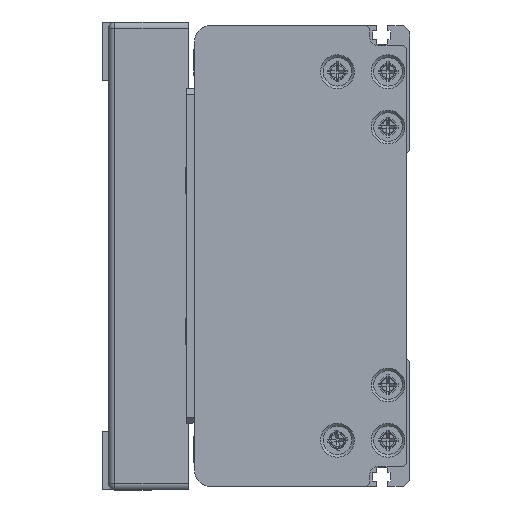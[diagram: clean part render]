
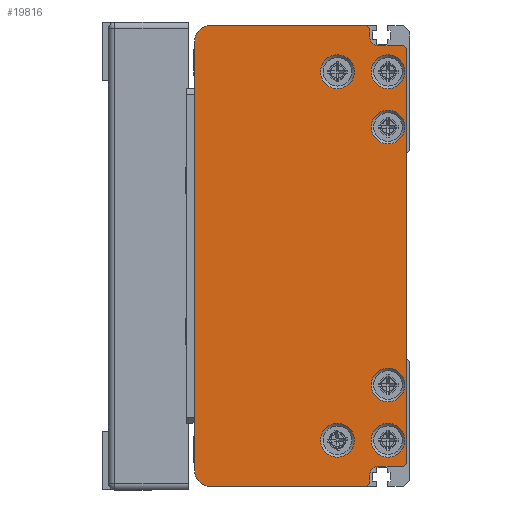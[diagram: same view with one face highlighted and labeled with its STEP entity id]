
A CAD part, left-side view. The second image highlights one B-rep face of the part: STEP entity #19816.
In plain terms, the highlighted planar face has unit normal (-1, 0, 0) as drawn and (0, 0, -1) by its records, which use the part's own axes.
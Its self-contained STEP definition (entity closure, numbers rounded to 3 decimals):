
#934=LINE('',#28642,#2599);
#935=LINE('',#28646,#2600);
#936=LINE('',#28648,#2601);
#937=LINE('',#28650,#2602);
#938=LINE('',#28654,#2603);
#939=LINE('',#28656,#2604);
#940=LINE('',#28658,#2605);
#941=LINE('',#28660,#2606);
#942=LINE('',#28662,#2607);
#943=LINE('',#28666,#2608);
#944=LINE('',#28668,#2609);
#945=LINE('',#28670,#2610);
#2599=VECTOR('',#23255,140.);
#2600=VECTOR('',#23258,51.);
#2601=VECTOR('',#23259,1.414);
#2602=VECTOR('',#23260,2.5);
#2603=VECTOR('',#23263,8.);
#2604=VECTOR('',#23264,1.414);
#2605=VECTOR('',#23265,135.);
#2606=VECTOR('',#23266,1.414);
#2607=VECTOR('',#23267,8.);
#2608=VECTOR('',#23270,2.5);
#2609=VECTOR('',#23271,1.414);
#2610=VECTOR('',#23272,51.);
#4217=PLANE('',#21174);
#4844=FACE_BOUND('',#6672,.T.);
#4845=FACE_BOUND('',#6673,.T.);
#4846=FACE_BOUND('',#6674,.T.);
#4847=FACE_BOUND('',#6675,.T.);
#4848=FACE_BOUND('',#6676,.T.);
#4849=FACE_BOUND('',#6677,.T.);
#5395=FACE_OUTER_BOUND('',#6671,.T.);
#6671=EDGE_LOOP('',(#13911,#13912,#13913,#13914,#13915,#13916,#13917,#13918,
#13919,#13920,#13921,#13922,#13923,#13924,#13925,#13926));
#6672=EDGE_LOOP('',(#13927));
#6673=EDGE_LOOP('',(#13928));
#6674=EDGE_LOOP('',(#13929));
#6675=EDGE_LOOP('',(#13930));
#6676=EDGE_LOOP('',(#13931));
#6677=EDGE_LOOP('',(#13932));
#8177=CIRCLE('',#21175,5.);
#8178=CIRCLE('',#21176,3.);
#8179=CIRCLE('',#21177,3.);
#8180=CIRCLE('',#21178,5.);
#8181=CIRCLE('',#21179,5.5);
#8182=CIRCLE('',#21180,5.5);
#8183=CIRCLE('',#21181,5.5);
#8184=CIRCLE('',#21182,5.5);
#8185=CIRCLE('',#21183,5.5);
#8186=CIRCLE('',#21184,5.5);
#8865=VERTEX_POINT('',#28640);
#8866=VERTEX_POINT('',#28641);
#8867=VERTEX_POINT('',#28643);
#8868=VERTEX_POINT('',#28645);
#8869=VERTEX_POINT('',#28647);
#8870=VERTEX_POINT('',#28649);
#8871=VERTEX_POINT('',#28651);
#8872=VERTEX_POINT('',#28653);
#8873=VERTEX_POINT('',#28655);
#8874=VERTEX_POINT('',#28657);
#8875=VERTEX_POINT('',#28659);
#8876=VERTEX_POINT('',#28661);
#8877=VERTEX_POINT('',#28663);
#8878=VERTEX_POINT('',#28665);
#8879=VERTEX_POINT('',#28667);
#8880=VERTEX_POINT('',#28669);
#8881=VERTEX_POINT('',#28672);
#8882=VERTEX_POINT('',#28674);
#8883=VERTEX_POINT('',#28676);
#8884=VERTEX_POINT('',#28678);
#8885=VERTEX_POINT('',#28680);
#8886=VERTEX_POINT('',#28682);
#10897=EDGE_CURVE('',#8865,#8866,#934,.T.);
#10898=EDGE_CURVE('',#8866,#8867,#8177,.T.);
#10899=EDGE_CURVE('',#8867,#8868,#935,.T.);
#10900=EDGE_CURVE('',#8868,#8869,#936,.T.);
#10901=EDGE_CURVE('',#8869,#8870,#937,.T.);
#10902=EDGE_CURVE('',#8870,#8871,#8178,.T.);
#10903=EDGE_CURVE('',#8871,#8872,#938,.T.);
#10904=EDGE_CURVE('',#8872,#8873,#939,.T.);
#10905=EDGE_CURVE('',#8873,#8874,#940,.T.);
#10906=EDGE_CURVE('',#8874,#8875,#941,.T.);
#10907=EDGE_CURVE('',#8875,#8876,#942,.T.);
#10908=EDGE_CURVE('',#8876,#8877,#8179,.T.);
#10909=EDGE_CURVE('',#8877,#8878,#943,.T.);
#10910=EDGE_CURVE('',#8878,#8879,#944,.T.);
#10911=EDGE_CURVE('',#8879,#8880,#945,.T.);
#10912=EDGE_CURVE('',#8880,#8865,#8180,.T.);
#10913=EDGE_CURVE('',#8881,#8881,#8181,.T.);
#10914=EDGE_CURVE('',#8882,#8882,#8182,.T.);
#10915=EDGE_CURVE('',#8883,#8883,#8183,.T.);
#10916=EDGE_CURVE('',#8884,#8884,#8184,.T.);
#10917=EDGE_CURVE('',#8885,#8885,#8185,.T.);
#10918=EDGE_CURVE('',#8886,#8886,#8186,.T.);
#13911=ORIENTED_EDGE('',*,*,#10897,.T.);
#13912=ORIENTED_EDGE('',*,*,#10898,.T.);
#13913=ORIENTED_EDGE('',*,*,#10899,.T.);
#13914=ORIENTED_EDGE('',*,*,#10900,.T.);
#13915=ORIENTED_EDGE('',*,*,#10901,.T.);
#13916=ORIENTED_EDGE('',*,*,#10902,.T.);
#13917=ORIENTED_EDGE('',*,*,#10903,.T.);
#13918=ORIENTED_EDGE('',*,*,#10904,.T.);
#13919=ORIENTED_EDGE('',*,*,#10905,.T.);
#13920=ORIENTED_EDGE('',*,*,#10906,.T.);
#13921=ORIENTED_EDGE('',*,*,#10907,.T.);
#13922=ORIENTED_EDGE('',*,*,#10908,.T.);
#13923=ORIENTED_EDGE('',*,*,#10909,.T.);
#13924=ORIENTED_EDGE('',*,*,#10910,.T.);
#13925=ORIENTED_EDGE('',*,*,#10911,.T.);
#13926=ORIENTED_EDGE('',*,*,#10912,.T.);
#13927=ORIENTED_EDGE('',*,*,#10913,.T.);
#13928=ORIENTED_EDGE('',*,*,#10914,.T.);
#13929=ORIENTED_EDGE('',*,*,#10915,.T.);
#13930=ORIENTED_EDGE('',*,*,#10916,.T.);
#13931=ORIENTED_EDGE('',*,*,#10917,.T.);
#13932=ORIENTED_EDGE('',*,*,#10918,.T.);
#19816=ADVANCED_FACE('',(#5395,#4844,#4845,#4846,#4847,#4848,#4849),#4217,
 .F.);
#21174=AXIS2_PLACEMENT_3D('',#28639,#23253,#23254);
#21175=AXIS2_PLACEMENT_3D('',#28644,#23256,#23257);
#21176=AXIS2_PLACEMENT_3D('',#28652,#23261,#23262);
#21177=AXIS2_PLACEMENT_3D('',#28664,#23268,#23269);
#21178=AXIS2_PLACEMENT_3D('',#28671,#23273,#23274);
#21179=AXIS2_PLACEMENT_3D('',#28673,#23275,#23276);
#21180=AXIS2_PLACEMENT_3D('',#28675,#23277,#23278);
#21181=AXIS2_PLACEMENT_3D('',#28677,#23279,#23280);
#21182=AXIS2_PLACEMENT_3D('',#28679,#23281,#23282);
#21183=AXIS2_PLACEMENT_3D('',#28681,#23283,#23284);
#21184=AXIS2_PLACEMENT_3D('',#28683,#23285,#23286);
#23253=DIRECTION('center_axis',(0.,0.,
1.));
#23254=DIRECTION('ref_axis',(1.,0.,0.));
#23255=DIRECTION('',(1.,0.,0.));
#23256=DIRECTION('center_axis',(0.,0.,
-1.));
#23257=DIRECTION('ref_axis',(-1.,0.,0.));
#23258=DIRECTION('',(0.,-1.,0.));
#23259=DIRECTION('',(-0.707,-0.707,0.));
#23260=DIRECTION('',(-1.,0.,0.));
#23261=DIRECTION('center_axis',(0.,0.,
1.));
#23262=DIRECTION('ref_axis',(0.,1.,0.));
#23263=DIRECTION('',(0.,-1.,0.));
#23264=DIRECTION('',(-0.707,-0.707,0.));
#23265=DIRECTION('',(-1.,0.,0.));
#23266=DIRECTION('',(-0.707,0.707,0.));
#23267=DIRECTION('',(0.,1.,0.));
#23268=DIRECTION('center_axis',(0.,0.,
1.));
#23269=DIRECTION('ref_axis',(1.,0.,0.));
#23270=DIRECTION('',(-1.,0.,0.));
#23271=DIRECTION('',(-0.707,0.707,0.));
#23272=DIRECTION('',(0.,1.,0.));
#23273=DIRECTION('center_axis',(0.,0.,
-1.));
#23274=DIRECTION('ref_axis',(0.,-1.,0.));
#23275=DIRECTION('center_axis',(0.,0.,
1.));
#23276=DIRECTION('ref_axis',(-1.,0.,0.));
#23277=DIRECTION('center_axis',(0.,0.,
1.));
#23278=DIRECTION('ref_axis',(-1.,0.,0.));
#23279=DIRECTION('center_axis',(0.,0.,
1.));
#23280=DIRECTION('ref_axis',(-1.,0.,0.));
#23281=DIRECTION('center_axis',(0.,0.,
1.));
#23282=DIRECTION('ref_axis',(-1.,0.,0.));
#23283=DIRECTION('center_axis',(0.,0.,
1.));
#23284=DIRECTION('ref_axis',(-1.,0.,0.));
#23285=DIRECTION('center_axis',(0.,0.,
1.));
#23286=DIRECTION('ref_axis',(-1.,0.,0.));
#28639=CARTESIAN_POINT('Origin',(0.25,38.047,-919.));
#28640=CARTESIAN_POINT('',(-69.75,72.25,-919.));
#28641=CARTESIAN_POINT('',(70.25,72.25,-919.));
#28642=CARTESIAN_POINT('',(-69.75,72.25,-919.));
#28643=CARTESIAN_POINT('',(75.25,67.25,-919.));
#28644=CARTESIAN_POINT('Origin',(70.25,67.25,-919.));
#28645=CARTESIAN_POINT('',(75.25,16.25,-919.));
#28646=CARTESIAN_POINT('',(75.25,67.25,-919.));
#28647=CARTESIAN_POINT('',(74.25,15.25,-919.));
#28648=CARTESIAN_POINT('',(75.25,16.25,-919.));
#28649=CARTESIAN_POINT('',(71.75,15.25,-919.));
#28650=CARTESIAN_POINT('',(74.25,15.25,-919.));
#28651=CARTESIAN_POINT('',(68.75,12.25,-919.));
#28652=CARTESIAN_POINT('Origin',(71.75,12.25,-919.));
#28653=CARTESIAN_POINT('',(68.75,4.25,-919.));
#28654=CARTESIAN_POINT('',(68.75,12.25,-919.));
#28655=CARTESIAN_POINT('',(67.75,3.25,-919.));
#28656=CARTESIAN_POINT('',(68.75,4.25,-919.));
#28657=CARTESIAN_POINT('',(-67.25,3.25,-919.));
#28658=CARTESIAN_POINT('',(67.75,3.25,-919.));
#28659=CARTESIAN_POINT('',(-68.25,4.25,-919.));
#28660=CARTESIAN_POINT('',(-67.25,3.25,-919.));
#28661=CARTESIAN_POINT('',(-68.25,12.25,-919.));
#28662=CARTESIAN_POINT('',(-68.25,4.25,-919.));
#28663=CARTESIAN_POINT('',(-71.25,15.25,-919.));
#28664=CARTESIAN_POINT('Origin',(-71.25,12.25,-919.));
#28665=CARTESIAN_POINT('',(-73.75,15.25,-919.));
#28666=CARTESIAN_POINT('',(-71.25,15.25,-919.));
#28667=CARTESIAN_POINT('',(-74.75,16.25,-919.));
#28668=CARTESIAN_POINT('',(-73.75,15.25,-919.));
#28669=CARTESIAN_POINT('',(-74.75,67.25,-919.));
#28670=CARTESIAN_POINT('',(-74.75,16.25,-919.));
#28671=CARTESIAN_POINT('Origin',(-69.75,67.25,-919.));
#28672=CARTESIAN_POINT('',(-47.25,9.25,-919.));
#28673=CARTESIAN_POINT('Origin',(-41.75,9.25,-919.));
#28674=CARTESIAN_POINT('',(36.75,9.25,-919.));
#28675=CARTESIAN_POINT('Origin',(42.25,9.25,-919.));
#28676=CARTESIAN_POINT('',(-65.25,25.75,-919.));
#28677=CARTESIAN_POINT('Origin',(-59.75,25.75,-919.));
#28678=CARTESIAN_POINT('',(54.75,25.75,-919.));
#28679=CARTESIAN_POINT('Origin',(60.25,25.75,-919.));
#28680=CARTESIAN_POINT('',(-65.25,9.25,-919.));
#28681=CARTESIAN_POINT('Origin',(-59.75,9.25,-919.));
#28682=CARTESIAN_POINT('',(54.75,9.25,-919.));
#28683=CARTESIAN_POINT('Origin',(60.25,9.25,-919.));
